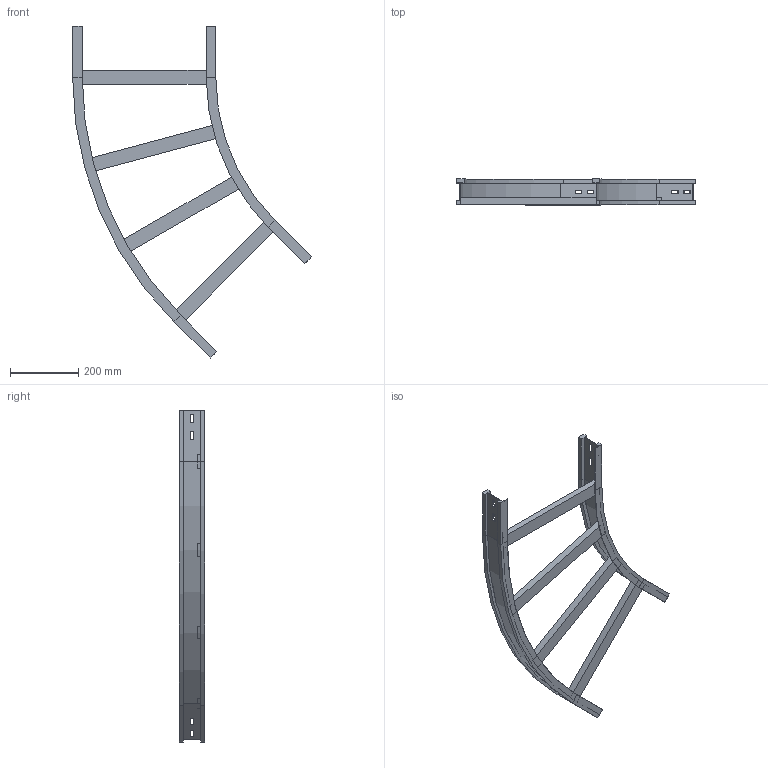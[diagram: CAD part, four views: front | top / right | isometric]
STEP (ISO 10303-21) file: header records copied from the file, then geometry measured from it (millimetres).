
FILE_DESCRIPTION (( 'STEP AP214' ), '1' );
FILE_NAME ('11S6C400.step', '2025-02-21T16:06:13', ( '' ), ( '' ), 'SwSTEP 2.0', 'SolidWorks 2023', '' );
FILE_SCHEMA (( 'AUTOMOTIVE_DESIGN' ));
Length unit declared in the file: millimetre
Products named in the file (4): TRAVERSINO_400; 11S6C400; LONGH.ESTERNO 45°_H75_R600+400; LONGH.INTERNO 45°_H75_R600
Assembly tree (6 placements, depth 2):
  11S6C400
    LONGH.INTERNO 45°_H75_R600
    LONGH.ESTERNO 45°_H75_R600+400
    TRAVERSINO_400  x4
Bounding box: 697.17 x 75 x 969.54 mm (x, y, z)
Volume: 2198437.9 mm3; surface area: 656404.4 mm2
Topology: 6 solids, 6 shells, 132 faces, 312 edges, 192 vertices
Faces by surface type: plane 120, cylinder 12
Entity records: 3397 total; most frequent: CARTESIAN_POINT 567, ORIENTED_EDGE 552, DIRECTION 546, EDGE_CURVE 276, LINE 252, VECTOR 252, VERTEX_POINT 168, AXIS2_PLACEMENT_3D 147
